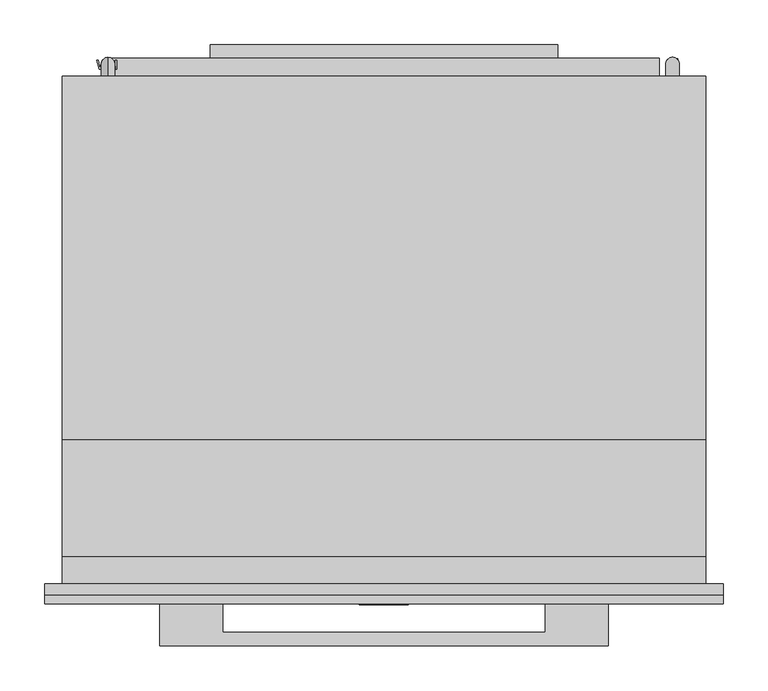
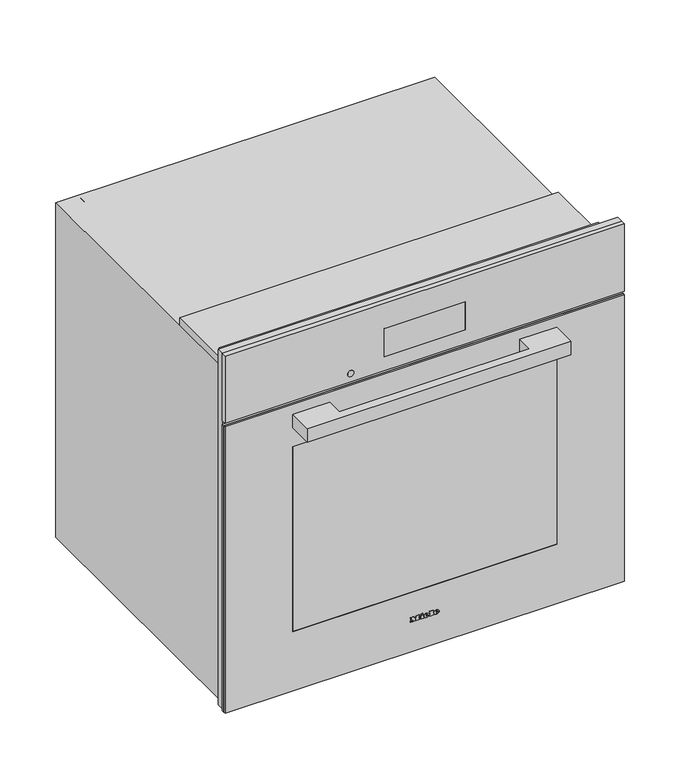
"""IFC4 building model written with IfcOpenShell, lengths in millimetres: proxy geometry, 11805610_USA_H7880BP_OBSW : 22788025_USA_11805610_H7880BP_OBSW."""

import ifcopenshell
import ifcopenshell.guid

model = None  # the IFC model being written
_history = None  # IfcOwnerHistory: only IFC2X3 demands one
_inside = {}  # id of a spatial element -> (the spatial element, [elements in it])
_under = {}  # id of a project, library or spatial element -> (it, [spatial elements below it])
_declared = {}  # id of a project -> (the project, [libraries it declares])
_typed = {}  # id of a type object -> (the type object, [elements of that type])
_made_of = {}  # id of a material, layer set ... -> (it, [elements and type objects made of it])


def new_model(schema):
    """Start an empty IFC model of exactly this schema.

    Asked for "IFC4X3", IfcOpenShell would pick the latest addendum, in which some entities
    have other attributes; the version numbers below select the first issue.
    IFC2X3 requires an IfcOwnerHistory on every rooted entity: one is made here for all.
    """
    global model, _history
    if schema == "IFC4X3":
        model = ifcopenshell.file(schema_version=(4, 3, 0, 0))
    else:
        model = ifcopenshell.file(schema=schema)
    _inside.clear()
    _under.clear()
    _declared.clear()
    _typed.clear()
    _made_of.clear()
    _history = None
    if model.schema == "IFC2X3":
        org = make("IfcOrganization", Name="unknown")
        user = make(
            "IfcPersonAndOrganization",
            ThePerson=make("IfcPerson", FamilyName="unknown"),
            TheOrganization=org,
        )
        app = make(
            "IfcApplication",
            ApplicationDeveloper=org,
            Version="unknown",
            ApplicationFullName="unknown",
            ApplicationIdentifier="unknown",
        )
        _history = make(
            "IfcOwnerHistory",
            OwningUser=user,
            OwningApplication=app,
            ChangeAction="ADDED",
            CreationDate=0,
        )
    return model


def make(cls, **values):
    """One entity of the class cls with the attributes given. An attribute that is None is left unset."""
    return model.create_entity(
        cls, **{name: value for name, value in values.items() if value is not None}
    )


def rooted(cls, **values):
    """An entity with a GlobalId (a new one), such as an element, a storey or a relation."""
    return make(cls, GlobalId=ifcopenshell.guid.new(), OwnerHistory=_history, **values)


def si_unit(unit_type, name, prefix=None):
    """IfcSIUnit, for example si_unit("LENGTHUNIT", "METRE", prefix="MILLI")."""
    return make("IfcSIUnit", UnitType=unit_type, Prefix=prefix, Name=name)


def assignment(units):
    """IfcUnitAssignment: the units of a project."""
    return None if units is None else make("IfcUnitAssignment", Units=units)


def point(xyz):
    """IfcCartesianPoint."""
    return None if xyz is None else make("IfcCartesianPoint", Coordinates=xyz)


def direction(xyz):
    """IfcDirection."""
    return None if xyz is None else make("IfcDirection", DirectionRatios=xyz)


def frame(location, z_axis=None, x_axis=None):
    """IfcAxis2Placement3D, a coordinate frame: its origin and axes. An axis left out is left unset."""
    return make(
        "IfcAxis2Placement3D",
        Location=point(location),
        Axis=direction(z_axis),
        RefDirection=direction(x_axis),
    )


def frame_2d(location, x_axis=None):
    """IfcAxis2Placement2D, a coordinate frame in the plane: its origin and x axis."""
    return make(
        "IfcAxis2Placement2D", Location=point(location), RefDirection=direction(x_axis)
    )


def origin():
    """The frame at (0, 0, 0) with its axes left unset."""
    return frame((0.0, 0.0, 0.0))


def place(relative_to, where):
    """IfcLocalPlacement: puts the frame where relative to a parent placement (None: the world)."""
    return make(
        "IfcLocalPlacement", PlacementRelTo=relative_to, RelativePlacement=where
    )


def context(
    kind, dimensions, precision=None, world=None, true_north=None, identifier=None
):
    """IfcGeometricRepresentationContext, for example the 3D "Model" context."""
    return make(
        "IfcGeometricRepresentationContext",
        ContextIdentifier=identifier,
        ContextType=kind,
        CoordinateSpaceDimension=dimensions,
        Precision=precision,
        WorldCoordinateSystem=world,
        TrueNorth=true_north,
    )


def project(units=None, contexts=None):
    """IfcProject with its units and contexts."""
    return rooted(
        "IfcProject",
        Name="project",
        RepresentationContexts=contexts,
        UnitsInContext=assignment(units),
    )


def spatial(cls, under=None, at=None, **own):
    """A site, building, storey or space (cls), placed at a placement, below another one or the project."""
    s = rooted(cls, ObjectPlacement=at, **own)
    if under is not None:
        _under.setdefault(under.id(), (under, []))[1].append(s)
    return s


def polyline(points):
    """IfcPolyline through the points."""
    return make("IfcPolyline", Points=[point(p) for p in points])


def circle_curve(where, radius):
    """IfcCircle in the frame where."""
    return make("IfcCircle", Position=where, Radius=radius)


def ellipse_curve(where, semi_axis1, semi_axis2):
    """IfcEllipse in the frame where."""
    return make(
        "IfcEllipse", Position=where, SemiAxis1=semi_axis1, SemiAxis2=semi_axis2
    )


def trimmed(basis, trim1, trim2, sense, master):
    """IfcTrimmedCurve: the piece of a basis curve between two trims."""
    return make(
        "IfcTrimmedCurve",
        BasisCurve=basis,
        Trim1=trim1,
        Trim2=trim2,
        SenseAgreement=sense,
        MasterRepresentation=master,
    )


def segment(curve, same_sense, transition):
    """IfcCompositeCurveSegment."""
    return make(
        "IfcCompositeCurveSegment",
        Transition=transition,
        SameSense=same_sense,
        ParentCurve=curve,
    )


def composite_curve(segments, self_intersect=None):
    """IfcCompositeCurve: segments joined end to end."""
    return make("IfcCompositeCurve", Segments=segments, SelfIntersect=self_intersect)


def outline(outer, holes=None, kind="AREA"):
    """IfcArbitraryClosedProfileDef: a profile drawn as a closed curve; with holes, ...WithVoids."""
    if holes is None:
        return make("IfcArbitraryClosedProfileDef", ProfileType=kind, OuterCurve=outer)
    return make(
        "IfcArbitraryProfileDefWithVoids",
        ProfileType=kind,
        OuterCurve=outer,
        InnerCurves=holes,
    )


def extrude(swept, where, along, depth):
    """IfcExtrudedAreaSolid: the profile swept, set in the frame where, extruded along a direction by depth."""
    return make(
        "IfcExtrudedAreaSolid",
        SweptArea=swept,
        Position=where,
        ExtrudedDirection=direction(along),
        Depth=depth,
    )


def faces_of(points, faces, orient=None, outer=None):
    """IfcFace entities. A face is a list of loops; a loop is a list of indices into points, from 0.

    orient and outer hold one flag for each loop. By default every Orientation is true, the
    first loop of a face is its IfcFaceOuterBound and the others are IfcFaceBound.
    """
    made = []
    for i, loops in enumerate(faces):
        bounds = []
        for j, loop in enumerate(loops):
            is_outer = j == 0 if outer is None else outer[i][j]
            bounds.append(
                make(
                    "IfcFaceOuterBound" if is_outer else "IfcFaceBound",
                    Bound=make("IfcPolyLoop", Polygon=[points[k] for k in loop]),
                    Orientation=True if orient is None else orient[i][j],
                )
            )
        made.append(make("IfcFace", Bounds=bounds))
    return made


def faceted_brep(points, faces, orient=None, outer=None, voids=None):
    """IfcFacetedBrep: a solid bounded by flat faces; with voids (closed shells), ...WithVoids."""
    shared = [point(p) for p in points]
    hull = make("IfcClosedShell", CfsFaces=faces_of(shared, faces, orient, outer))
    if voids is None:
        return make("IfcFacetedBrep", Outer=hull)
    return make(
        "IfcFacetedBrepWithVoids",
        Outer=hull,
        Voids=[
            make(cls, CfsFaces=faces_of(shared, fs, o, b)) for cls, fs, o, b in voids
        ],
    )


def shape(context_of_items, identifier, shape_type, items):
    """IfcShapeRepresentation: the items that make up one representation, for example the "Body"."""
    return make(
        "IfcShapeRepresentation",
        ContextOfItems=context_of_items,
        RepresentationIdentifier=identifier,
        RepresentationType=shape_type,
        Items=items,
    )


def source(mapping_origin, context_of_items, identifier, shape_type, items):
    """IfcRepresentationMap: a shape defined once, which mapped items show again and again."""
    return make(
        "IfcRepresentationMap",
        MappingOrigin=mapping_origin,
        MappedRepresentation=shape(context_of_items, identifier, shape_type, items),
    )


def transform(
    local_origin,
    x_axis=None,
    y_axis=None,
    z_axis=None,
    scale=None,
    scale2=None,
    scale3=None,
    uniform=True,
):
    """IfcCartesianTransformationOperator3D, or its non-uniform kind. x_axis, y_axis, z_axis: its Axis1, 2, 3."""
    if uniform:
        return make(
            "IfcCartesianTransformationOperator3D",
            Axis1=direction(x_axis),
            Axis2=direction(y_axis),
            LocalOrigin=point(local_origin),
            Scale=scale,
            Axis3=direction(z_axis),
        )
    return make(
        "IfcCartesianTransformationOperator3DnonUniform",
        Axis1=direction(x_axis),
        Axis2=direction(y_axis),
        LocalOrigin=point(local_origin),
        Scale=scale,
        Axis3=direction(z_axis),
        Scale2=scale2,
        Scale3=scale3,
    )


def mapped(mapping_source, mapping_target):
    """IfcMappedItem: shows the shape of a source again, moved by a transform."""
    return make(
        "IfcMappedItem", MappingSource=mapping_source, MappingTarget=mapping_target
    )


def made_of(thing, what):
    """Note that an element or type object is made of a material, layer set ...; save() writes the relation."""
    if what is not None:
        _made_of.setdefault(what.id(), (what, []))[1].append(thing)
    return thing


def element(
    cls,
    number,
    at=None,
    inside=None,
    cuts=None,
    type_object=None,
    material=None,
    context=None,
    identifier="Body",
    shape_type=None,
    held_by="IfcProductDefinitionShape",
    body=None,
    shapes=None,
    **own,
):
    """One element of the class cls, such as IfcWall. Its Tag is "e" and its number.

    at: its placement. inside: the storey or other place that contains it. cuts: it is an
    opening in that element (IfcRelVoidsElement). A single representation is given by context,
    identifier, shape_type and body (its items); several are given by shapes. held_by: the class
    of the entity that holds the representations. save() writes the other relations.
    """
    e = rooted(cls, Tag="e%d" % number, ObjectPlacement=at, **own)
    if body is not None:
        shapes = [shape(context, identifier, shape_type, body)]
    if shapes is not None:
        e.Representation = make(held_by, Representations=shapes)
    if inside is not None:
        _inside.setdefault(inside.id(), (inside, []))[1].append(e)
    if cuts is not None:
        rooted(
            "IfcRelVoidsElement", RelatingBuildingElement=cuts, RelatedOpeningElement=e
        )
    if type_object is not None:
        _typed.setdefault(type_object.id(), (type_object, []))[1].append(e)
    return made_of(e, material)


def aggregate(whole, parts):
    """IfcRelAggregates: a whole, such as a stair, and the parts it consists of."""
    return rooted("IfcRelAggregates", RelatingObject=whole, RelatedObjects=parts)


def save(model, path):
    """Write the relations noted so far, then the file.

    IfcRelAggregates (storeys below a building ...), IfcRelContainedInSpatialStructure (elements
    in a storey), IfcRelDefinesByType, IfcRelAssociatesMaterial and IfcRelDeclares: one each for
    every whole, place, type object, material and project.
    """
    for whole, parts in _under.values():
        aggregate(whole, parts)
    for where, things in _inside.values():
        rooted(
            "IfcRelContainedInSpatialStructure",
            RelatedElements=things,
            RelatingStructure=where,
        )
    for kind, things in _typed.values():
        rooted("IfcRelDefinesByType", RelatedObjects=things, RelatingType=kind)
    for what, things in _made_of.values():
        rooted("IfcRelAssociatesMaterial", RelatedObjects=things, RelatingMaterial=what)
    for by, libraries in _declared.values():
        rooted("IfcRelDeclares", RelatingContext=by, RelatedDefinitions=libraries)
    model.write(path)


def plane_surface(at):
    """IfcPlane: the flat surface through the origin of the frame at, square to its z axis."""
    return make("IfcPlane", Position=at)


def cylinder_surface(at, radius):
    """IfcCylindricalSurface: all points at the distance radius from the z axis of the frame at."""
    return make("IfcCylindricalSurface", Position=at, Radius=radius)


def revolved_surface(curve, axis_point, axis_direction):
    """IfcSurfaceOfRevolution: the curve turned about the line through axis_point along axis_direction."""
    return make(
        "IfcSurfaceOfRevolution",
        SweptCurve=make("IfcArbitraryOpenProfileDef", ProfileType="CURVE", Curve=curve),
        AxisPosition=make("IfcAxis1Placement", Location=point(axis_point), Axis=direction(axis_direction)),
    )


def extruded_surface(curve, direction_of_extrusion, depth):
    """IfcSurfaceOfLinearExtrusion: the curve pushed along a direction by depth."""
    return make(
        "IfcSurfaceOfLinearExtrusion",
        SweptCurve=make("IfcArbitraryOpenProfileDef", ProfileType="CURVE", Curve=curve),
        ExtrudedDirection=direction(direction_of_extrusion),
        Depth=depth,
    )


def advanced_brep(points, edges, surfaces, faces):
    """IfcAdvancedBrep: a solid bounded by faces that lie on surfaces and meet in shared edges.

    An edge is (start, end): straight between two places in points (the first is 0);
    or (start, end, curve); or (start, end, curve, False) where it runs against its curve.
    A face is (place in surfaces, loops), or (place, loops, False) where it looks against
    its surface's normal. A loop lists edges by number (the first is 1), with a minus sign
    where the edge is run from its end to its start. The first loop is the outer one.
    """
    corners = [point(p) for p in points]
    vertices = [make("IfcVertexPoint", VertexGeometry=c) for c in corners]
    made = []
    for start, end, *more in edges:
        made.append(
            make(
                "IfcEdgeCurve",
                EdgeStart=vertices[start],
                EdgeEnd=vertices[end],
                EdgeGeometry=more[0] if more else make("IfcPolyline", Points=[corners[start], corners[end]]),
                SameSense=more[1] if len(more) > 1 else True,
            )
        )
    hull = []
    for where, loops, *sense in faces:
        bounds = []
        for j, loop in enumerate(loops):
            ring = [make("IfcOrientedEdge", EdgeElement=made[abs(k) - 1], Orientation=k > 0) for k in loop]
            bounds.append(
                make(
                    "IfcFaceOuterBound" if j == 0 else "IfcFaceBound",
                    Bound=make("IfcEdgeLoop", EdgeList=ring),
                    Orientation=True,
                )
            )
        hull.append(make("IfcAdvancedFace", Bounds=bounds, FaceSurface=surfaces[where], SameSense=sense[0] if sense else True))
    return make("IfcAdvancedBrep", Outer=make("IfcClosedShell", CfsFaces=hull))


def specialty_equipment_b9d998e4(model_context):
    return source(origin(), model_context, "Body", "SolidModel", [
        advanced_brep(
        [(21.28, -23.0, 73.133), (21.28, -23.0, 74.042), (27.301, -23.0, 74.042), (16.825, -23.0, 74.042), (19.3, -23.0, 71.0), (27.148, -23.0, 73.133), (24.43, -23.0, 73.133), (22.288, -23.0, 72.125), (21.28, -23.0, 75.194), (21.28, -23.0, 76.175), (22.819, -23.0, 76.175), (22.819, -23.0, 75.194), (21.28, -22.0, 73.133), (22.288, -22.0, 72.125), (24.43, -22.0, 73.133), (27.148, -22.0, 73.133), (19.3, -22.0, 71.0), (16.825, -22.0, 74.042), (27.301, -22.0, 74.042), (21.28, -22.0, 74.042), (21.28, -22.0, 75.194), (22.819, -22.0, 75.194), (22.819, -22.0, 76.175), (21.28, -22.0, 76.175)],
        [
            (0, 1),
            (1, 2),
            (2, 3, ellipse_curve(frame((22.063, -23.0, 74.042), z_axis=(0.0, -1.0, 0.0), x_axis=(-1.0, 0.0, 0.0)), 5.238, 4.329)),
            (3, 4, circle_curve(frame((20.3080491, -23.0, 74.348), z_axis=(0.0, -1.0, 0.0), x_axis=(0.0, 0.0, -1.0)), 3.4964649)),
            (4, 5, circle_curve(frame((21.9581428, -23.0, 76.724), z_axis=(0.0, -1.0, 0.0), x_axis=(0.0, 0.0, -1.0)), 6.3110933)),
            (5, 6),
            (6, 7, circle_curve(frame((22.7279412, -23.0, 73.97), z_axis=(0.0, 1.0, 0.0), x_axis=(0.0, 0.0, -1.0)), 1.896727)),
            (7, 0, circle_curve(frame((22.288, -23.0, 73.133), z_axis=(0.0, 1.0, 0.0), x_axis=(0.0, 0.0, -1.0)), 1.008)),
            (8, 9),
            (9, 10, circle_curve(frame((22.0495, -23.0, 76.175), z_axis=(0.0, 1.0, 0.0), x_axis=(0.0, 0.0, -1.0)), 0.7695)),
            (10, 11),
            (11, 8),
            (12, 13, circle_curve(frame((22.288, -22.0, 73.133), z_axis=(0.0, -1.0, 0.0), x_axis=(0.0, 0.0, -1.0)), 1.008)),
            (13, 14, circle_curve(frame((22.7279412, -22.0, 73.97), z_axis=(0.0, -1.0, 0.0), x_axis=(0.0, 0.0, -1.0)), 1.896727)),
            (14, 15),
            (15, 16, circle_curve(frame((21.9581428, -22.0, 76.724), z_axis=(0.0, 1.0, 0.0), x_axis=(0.0, 0.0, -1.0)), 6.3110933)),
            (16, 17, circle_curve(frame((20.3080491, -22.0, 74.348), z_axis=(0.0, 1.0, 0.0), x_axis=(0.0, 0.0, -1.0)), 3.4964649)),
            (17, 18, ellipse_curve(frame((22.063, -22.0, 74.042), z_axis=(0.0, 1.0, 0.0), x_axis=(-1.0, 0.0, 0.0)), 5.238, 4.329)),
            (18, 19),
            (19, 12),
            (20, 21),
            (21, 22),
            (22, 23, circle_curve(frame((22.0495, -22.0, 76.175), z_axis=(0.0, -1.0, 0.0), x_axis=(0.0, 0.0, -1.0)), 0.7695)),
            (23, 20),
            (0, 12),
            (19, 1),
            (18, 2),
            (5, 15),
            (14, 6),
            (17, 3),
            (13, 7),
            (16, 4),
            (8, 20),
            (23, 9),
            (22, 10),
            (21, 11),
        ],
        [
            plane_surface(frame((21.28, -23.0, 74.042), z_axis=(0.0, -1.0, 0.0), x_axis=(0.0, 0.0, 1.0))),
            plane_surface(frame((21.28, -22.0, 74.042), z_axis=(0.0, 1.0, 0.0), x_axis=(0.0, 0.0, -1.0))),
            plane_surface(frame((21.28, -23.0, 73.133), z_axis=(1.0, 0.0, 0.0), x_axis=(0.0, 1.0, 0.0))),
            plane_surface(frame((21.28, -23.0, 74.042), z_axis=(0.0, 0.0, -1.0), x_axis=(0.0, 1.0, 0.0))),
            plane_surface(frame((27.148, -23.0, 73.133), z_axis=(0.0, 0.0, 1.0), x_axis=(0.0, 1.0, 0.0))),
            extruded_surface(trimmed(ellipse_curve(frame((22.063, -21.0, 74.042), z_axis=(0.0, -1.0, 0.0), x_axis=(-1.0, 0.0, 0.0)), 5.238, 4.329), [point((27.301, -21.0, 74.042))], [point((16.825, -21.0, 74.042))], True, "CARTESIAN"), (0.0, -1.0, 0.0), 1.0),
            revolved_surface(polyline([(22.7279412, -22.0, 72.073273), (22.7279412, -23.0, 72.073273)]), (22.7279412, -22.0, 73.97), (0.0, 1.0, 0.0)),
            revolved_surface(polyline([(22.288, -22.0, 72.125), (22.288, -23.0, 72.125)]), (22.288, -22.0, 73.133), (0.0, 1.0, 0.0)),
            cylinder_surface(frame((20.3080491, -22.0, 74.348), z_axis=(0.0, -1.0, 0.0), x_axis=(0.0, 0.0, -1.0)), 3.4964649),
            cylinder_surface(frame((21.9581428, -22.0, 76.724), z_axis=(0.0, -1.0, 0.0), x_axis=(0.0, 0.0, -1.0)), 6.3110933),
            plane_surface(frame((21.28, -23.0, 75.194), z_axis=(1.0, 0.0, 0.0), x_axis=(0.0, 1.0, 0.0))),
            revolved_surface(polyline([(22.0495, -22.0, 75.4055), (22.0495, -23.0, 75.4055)]), (22.0495, -22.0, 76.175), (0.0, 1.0, 0.0)),
            plane_surface(frame((22.819, -23.0, 76.175), z_axis=(-1.0, 0.0, 0.0), x_axis=(0.0, 1.0, 0.0))),
            plane_surface(frame((22.819, -23.0, 75.194), z_axis=(0.0, 0.0, 1.0), x_axis=(0.0, 1.0, 0.0))),
        ],
        [
            (0, [[1, 2, 3, 4, 5, 6, 7, 8], [9, 10, 11, 12]]),
            (1, [[13, 14, 15, 16, 17, 18, 19, 20], [21, 22, 23, 24]]),
            (2, [[-1, 25, -20, 26]]),
            (3, [[-2, -26, -19, 27]]),
            (4, [[-6, 28, -15, 29]]),
            (5, [[-3, -27, -18, 30]]),
            (6, [[-7, -29, -14, 31]]),
            (7, [[-8, -31, -13, -25]]),
            (8, [[-4, -30, -17, 32]]),
            (9, [[-5, -32, -16, -28]]),
            (10, [[-9, 33, -24, 34]]),
            (11, [[-10, -34, -23, 35]]),
            (12, [[-11, -35, -22, 36]]),
            (13, [[-12, -36, -21, -33]]),
        ],
    ),
        advanced_brep(
        [(2.497, -23.0, 73.133), (2.497, -23.0, 74.042), (8.518, -23.0, 74.042), (-1.958, -23.0, 74.042), (0.517, -23.0, 71.0), (8.365, -23.0, 73.133), (5.647, -23.0, 73.133), (3.505, -23.0, 72.125), (2.497, -23.0, 75.194), (2.497, -23.0, 76.175), (4.036, -23.0, 76.175), (4.036, -23.0, 75.194), (2.497, -22.0, 73.133), (3.505, -22.0, 72.125), (5.647, -22.0, 73.133), (8.365, -22.0, 73.133), (0.517, -22.0, 71.0), (-1.958, -22.0, 74.042), (8.518, -22.0, 74.042), (2.497, -22.0, 74.042), (2.497, -22.0, 75.194), (4.036, -22.0, 75.194), (4.036, -22.0, 76.175), (2.497, -22.0, 76.175)],
        [
            (0, 1),
            (1, 2),
            (2, 3, ellipse_curve(frame((3.28, -23.0, 74.042), z_axis=(0.0, -1.0, 0.0), x_axis=(-1.0, 0.0, 0.0)), 5.238, 4.329)),
            (3, 4, circle_curve(frame((1.5250491, -23.0, 74.348), z_axis=(0.0, -1.0, 0.0), x_axis=(0.0, 0.0, -1.0)), 3.4964649)),
            (4, 5, circle_curve(frame((3.1751428, -23.0, 76.724), z_axis=(0.0, -1.0, 0.0), x_axis=(0.0, 0.0, -1.0)), 6.3110933)),
            (5, 6),
            (6, 7, circle_curve(frame((3.9449412, -23.0, 73.97), z_axis=(0.0, 1.0, 0.0), x_axis=(0.0, 0.0, -1.0)), 1.896727)),
            (7, 0, circle_curve(frame((3.505, -23.0, 73.133), z_axis=(0.0, 1.0, 0.0), x_axis=(0.0, 0.0, -1.0)), 1.008)),
            (8, 9),
            (9, 10, circle_curve(frame((3.2665, -23.0, 76.175), z_axis=(0.0, 1.0, 0.0), x_axis=(0.0, 0.0, -1.0)), 0.7695)),
            (10, 11),
            (11, 8),
            (12, 13, circle_curve(frame((3.505, -22.0, 73.133), z_axis=(0.0, -1.0, 0.0), x_axis=(0.0, 0.0, -1.0)), 1.008)),
            (13, 14, circle_curve(frame((3.9449412, -22.0, 73.97), z_axis=(0.0, -1.0, 0.0), x_axis=(0.0, 0.0, -1.0)), 1.896727)),
            (14, 15),
            (15, 16, circle_curve(frame((3.1751428, -22.0, 76.724), z_axis=(0.0, 1.0, 0.0), x_axis=(0.0, 0.0, -1.0)), 6.3110933)),
            (16, 17, circle_curve(frame((1.5250491, -22.0, 74.348), z_axis=(0.0, 1.0, 0.0), x_axis=(0.0, 0.0, -1.0)), 3.4964649)),
            (17, 18, ellipse_curve(frame((3.28, -22.0, 74.042), z_axis=(0.0, 1.0, 0.0), x_axis=(-1.0, 0.0, 0.0)), 5.238, 4.329)),
            (18, 19),
            (19, 12),
            (20, 21),
            (21, 22),
            (22, 23, circle_curve(frame((3.2665, -22.0, 76.175), z_axis=(0.0, -1.0, 0.0), x_axis=(0.0, 0.0, -1.0)), 0.7695)),
            (23, 20),
            (0, 12),
            (19, 1),
            (18, 2),
            (5, 15),
            (14, 6),
            (17, 3),
            (13, 7),
            (16, 4),
            (8, 20),
            (23, 9),
            (22, 10),
            (21, 11),
        ],
        [
            plane_surface(frame((2.497, -23.0, 74.042), z_axis=(0.0, -1.0, 0.0), x_axis=(0.0, 0.0, 1.0))),
            plane_surface(frame((2.497, -22.0, 74.042), z_axis=(0.0, 1.0, 0.0), x_axis=(0.0, 0.0, -1.0))),
            plane_surface(frame((2.497, -23.0, 73.133), z_axis=(1.0, 0.0, 0.0), x_axis=(0.0, 1.0, 0.0))),
            plane_surface(frame((2.497, -23.0, 74.042), z_axis=(0.0, 0.0, -1.0), x_axis=(0.0, 1.0, 0.0))),
            plane_surface(frame((8.365, -23.0, 73.133), z_axis=(0.0, 0.0, 1.0), x_axis=(0.0, 1.0, 0.0))),
            extruded_surface(trimmed(ellipse_curve(frame((3.28, -21.0, 74.042), z_axis=(0.0, -1.0, 0.0), x_axis=(-1.0, 0.0, 0.0)), 5.238, 4.329), [point((8.518, -21.0, 74.042))], [point((-1.958, -21.0, 74.042))], True, "CARTESIAN"), (0.0, -1.0, 0.0), 1.0),
            revolved_surface(polyline([(3.9449412, -22.0, 72.073273), (3.9449412, -23.0, 72.073273)]), (3.9449412, -22.0, 73.97), (0.0, 1.0, 0.0)),
            revolved_surface(polyline([(3.505, -22.0, 72.125), (3.505, -23.0, 72.125)]), (3.505, -22.0, 73.133), (0.0, 1.0, 0.0)),
            cylinder_surface(frame((1.5250491, -22.0, 74.348), z_axis=(0.0, -1.0, 0.0), x_axis=(0.0, 0.0, -1.0)), 3.4964649),
            cylinder_surface(frame((3.1751428, -22.0, 76.724), z_axis=(0.0, -1.0, 0.0), x_axis=(0.0, 0.0, -1.0)), 6.3110933),
            plane_surface(frame((2.497, -23.0, 75.194), z_axis=(1.0, 0.0, 0.0), x_axis=(0.0, 1.0, 0.0))),
            revolved_surface(polyline([(3.2665, -22.0, 75.4055), (3.2665, -23.0, 75.4055)]), (3.2665, -22.0, 76.175), (0.0, 1.0, 0.0)),
            plane_surface(frame((4.036, -23.0, 76.175), z_axis=(-1.0, 0.0, 0.0), x_axis=(0.0, 1.0, 0.0))),
            plane_surface(frame((4.036, -23.0, 75.194), z_axis=(0.0, 0.0, 1.0), x_axis=(0.0, 1.0, 0.0))),
        ],
        [
            (0, [[1, 2, 3, 4, 5, 6, 7, 8], [9, 10, 11, 12]]),
            (1, [[13, 14, 15, 16, 17, 18, 19, 20], [21, 22, 23, 24]]),
            (2, [[-1, 25, -20, 26]]),
            (3, [[-2, -26, -19, 27]]),
            (4, [[-6, 28, -15, 29]]),
            (5, [[-3, -27, -18, 30]]),
            (6, [[-7, -29, -14, 31]]),
            (7, [[-8, -31, -13, -25]]),
            (8, [[-4, -30, -17, 32]]),
            (9, [[-5, -32, -16, -28]]),
            (10, [[-9, 33, -24, 34]]),
            (11, [[-10, -34, -23, 35]]),
            (12, [[-11, -35, -22, 36]]),
            (13, [[-12, -36, -21, -33]]),
        ],
    ),
        extrude(outline(polyline([(79.469, -7.34), (78.011, -6.656), (79.433, -3.605), (80.891, -4.28), (79.469, -7.34)])), frame((0.0, -23.0, 0.0), z_axis=(0.0, 1.0, 0.0), x_axis=(0.0, 0.0, 1.0)), (0.0, 0.0, 1.0), 1.0),
        extrude(outline(polyline([(77.813, -9.563), (76.202, -9.563), (76.202, -8.492), (72.512, -8.492), (72.512, -9.563), (71.0, -9.563), (71.0, -2.462), (72.512, -2.462), (72.512, -3.506), (77.813, -3.506), (77.813, -9.563)])), frame((0.0, -23.0, 0.0), z_axis=(0.0, 1.0, 0.0), x_axis=(0.0, 0.0, 1.0)), (0.0, 0.0, 1.0), 1.0),
        extrude(outline(polyline([(78.533, 9.022), (78.533, 10.102), (72.512, 10.102), (72.512, 9.022), (71.0, 9.022), (71.0, 16.321), (72.512, 16.321), (72.512, 15.214), (80.0, 15.214), (80.0, 9.022), (78.533, 9.022)])), frame((0.0, -23.0, 0.0), z_axis=(0.0, 1.0, 0.0), x_axis=(0.0, 0.0, 1.0)), (0.0, 0.0, 1.0), 1.0),
        extrude(outline(polyline([(78.533, -27.5), (78.533, -26.411), (72.512, -26.411), (72.512, -27.5), (71.0, -27.5), (71.0, -23.54), (72.512, -23.54), (72.512, -24.62), (76.3341247, -24.62), (71.0, -20.597), (76.4402223, -16.556), (72.512, -16.556), (72.512, -17.663), (71.0, -17.663), (71.0, -10.481), (72.512, -10.481), (72.512, -11.624), (78.533, -11.624), (78.533, -10.481), (80.0, -10.481), (80.0, -15.962), (76.625, -18.59), (80.0, -21.227), (80.0, -27.5), (78.533, -27.5)])), frame((0.0, -23.0, 0.0), z_axis=(0.0, 1.0, 0.0), x_axis=(0.0, 0.0, 1.0)), (0.0, 0.0, 1.0), 1.0),
        extrude(outline(polyline([(-250.0, -69.0), (-250.0, -22.0), (-180.0, -22.0), (-180.0, -54.0), (180.0, -54.0), (180.0, -22.0), (250.0, -22.0), (250.0, -69.0), (-250.0, -69.0)])), frame((0.0, 0.0, 538.0), z_axis=(0.0, 0.0, 1.0), x_axis=(1.0, 0.0, 0.0)), (0.0, 0.0, 1.0), 27.0),
        extrude(outline(polyline([(378.5, -18.0), (-378.5, -18.0), (-378.5, -13.0), (378.5, -13.0), (378.5, -18.0)])), frame((0.0, 0.0, 11.0), z_axis=(0.0, 0.0, 1.0), x_axis=(1.0, 0.0, 0.0)), (0.0, 0.0, 1.0), 574.0),
        extrude(outline(polyline([(585.0, 378.5), (585.0, -378.5), (11.0, -378.5), (11.0, 378.5), (585.0, 378.5)]), holes=[polyline([(500.0, 250.5), (130.0, 250.5), (130.0, -250.5), (500.0, -250.5), (500.0, 250.5)])]), frame((0.0, -22.0, 0.0), z_axis=(0.0, 1.0, 0.0), x_axis=(0.0, 0.0, 1.0)), (0.0, 0.0, 1.0), 4.0),
        extrude(outline(polyline([(-250.5, -18.0), (250.5, -18.0), (250.5, -22.0), (-250.5, -22.0), (-250.5, -18.0)])), frame((0.0, 0.0, 130.0), z_axis=(0.0, 0.0, 1.0), x_axis=(1.0, 0.0, 0.0)), (0.0, 0.0, 1.0), 370.0),
        extrude(outline(polyline([(-76.5, -21.0), (76.5, -21.0), (76.5, -22.0), (-76.5, -22.0), (-76.5, -21.0)])), frame((0.0, 0.0, 620.0), z_axis=(0.0, 0.0, 1.0), x_axis=(1.0, 0.0, 0.0)), (0.0, 0.0, 1.0), 56.0),
        faceted_brep([(378.5, -13.0, 727.0), (378.5, -13.0, 592.0), (-378.5, -13.0, 592.0), (-378.5, -13.0, 727.0), (378.5, -22.0, 592.0), (-378.5, -22.0, 592.0), (378.5, -22.0, 727.0), (-378.5, -22.0, 727.0), (76.5, -22.0, 676.0), (76.5, -22.0, 620.0), (-76.5, -22.0, 620.0), (-76.5, -22.0, 676.0), (-76.5, -21.0, 620.0), (-76.5, -21.0, 676.0), (76.5, -21.0, 676.0), (76.5, -21.0, 620.0)], [[[0, 1, 2, 3]], [[4, 5, 2, 1]], [[6, 7, 5, 4], [8, 9, 10, 11]], [[12, 13, 11, 10]], [[13, 14, 8, 11]], [[7, 6, 0, 3]], [[5, 7, 3, 2]], [[6, 4, 1, 0]], [[14, 13, 12, 15]], [[14, 15, 9, 8]], [[15, 12, 10, 9]]]),
        extrude(outline(composite_curve([segment(trimmed(circle_curve(frame_2d((609.0, -140.5745637)), 6.0), [point((609.0, -146.5745637))], [point((609.0, -134.5745637))], False, "CARTESIAN"), True, "CONTINUOUS"), segment(trimmed(circle_curve(frame_2d((609.0, -140.5745637)), 6.0), [point((609.0, -134.5745637))], [point((609.0, -146.5745637))], False, "CARTESIAN"), True, "CONTINUOUS")], self_intersect=False)), frame((0.0, -22.5, 0.0), z_axis=(0.0, 1.0, 0.0), x_axis=(0.0, 0.0, 1.0)), (0.0, 0.0, 1.0), 1.0),
        extrude(outline(polyline([(327.856335, 586.4164958), (327.856335, 576.4164958), (322.0, 576.4164958), (322.0, 577.4164958), (326.856335, 577.4164958), (326.856335, 580.9164958), (323.9061855, 580.9164958), (323.9061855, 581.9164958), (326.856335, 581.9164958), (326.856335, 585.4164958), (322.0, 585.4164958), (322.0, 586.4164958), (327.856335, 586.4164958)])), frame((0.0, 0.0, 585.0), z_axis=(0.0, 0.0, 1.0), x_axis=(1.0, 0.0, 0.0)), (0.0, 0.0, 1.0), 1.0),
        extrude(outline(polyline([(320.5, 576.4164958), (315.5, 576.4164958), (315.5, 577.4164958), (319.3952098, 577.4164958), (319.3952098, 586.4164958), (320.5, 586.4164958), (320.5, 576.4164958)])), frame((0.0, 0.0, 585.0), z_axis=(0.0, 0.0, 1.0), x_axis=(1.0, 0.0, 0.0)), (0.0, 0.0, 1.0), 1.0),
        advanced_brep(
        [(329.5, 567.0, 616.0), (314.5, 567.0, 616.0), (329.5, 580.5, 616.0), (314.5, 580.5, 616.0), (329.5, 580.5, 586.0), (314.5, 580.5, 586.0)],
        [
            (0, 1, circle_curve(frame((322.0, 567.0, 616.0), z_axis=(0.0, -1.0, 0.0), x_axis=(-1.0, 0.0, 0.0)), 7.5)),
            (1, 0, circle_curve(frame((322.0, 567.0, 616.0), z_axis=(0.0, -1.0, 0.0), x_axis=(-1.0, 0.0, 0.0)), 7.5)),
            (0, 2),
            (2, 3, ellipse_curve(frame((322.0, 580.5, 616.0), z_axis=(0.0, -0.7071067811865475, 0.7071067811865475), x_axis=(0.0, -0.7071067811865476, -0.7071067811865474)), 10.6066017, 7.5)),
            (3, 1),
            (3, 2, ellipse_curve(frame((322.0, 580.5, 616.0), z_axis=(0.0, -0.7071067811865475, 0.7071067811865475), x_axis=(0.0, -0.7071067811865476, -0.7071067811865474)), 10.6066017, 7.5)),
            (4, 5, circle_curve(frame((322.0, 580.5, 586.0), z_axis=(0.0, 0.0, -1.0), x_axis=(-1.0, 0.0, 0.0)), 7.5)),
            (5, 4, circle_curve(frame((322.0, 580.5, 586.0), z_axis=(0.0, 0.0, -1.0), x_axis=(-1.0, 0.0, 0.0)), 7.5)),
            (2, 4),
            (5, 3),
        ],
        [
            plane_surface(frame((322.0, 567.0, 616.0), z_axis=(0.0, -1.0, 0.0), x_axis=(-1.0, 0.0, 0.0))),
            cylinder_surface(frame((322.0, 567.0, 616.0), z_axis=(0.0, -1.0, 0.0), x_axis=(-1.0, 0.0, 0.0)), 7.5),
            plane_surface(frame((322.0, 580.5, 586.0), z_axis=(0.0, 0.0, -1.0), x_axis=(-1.0, 0.0, 0.0))),
            cylinder_surface(frame((322.0, 580.5, 616.0), z_axis=(0.0, 0.0, 1.0), x_axis=(-1.0, 0.0, 0.0)), 7.5),
        ],
        [
            (0, [[1, 2]]),
            (1, [[-1, 3, 4, 5]]),
            (1, [[-2, -5, 6, -3]]),
            (2, [[7, 8]]),
            (3, [[-4, 9, -8, 10]]),
            (3, [[-6, -10, -7, -9]]),
        ],
    ),
        extrude(outline(polyline([(-299.6202453, 584.6579034), (-298.3679159, 584.6579034), (-298.3679159, 574.6085654), (-299.6149696, 574.6085654), (-299.6149696, 578.0788376), (-301.2450476, 579.7089156), (-305.0884371, 574.6085654), (-306.7066233, 574.6085654), (-302.2301778, 580.5490092), (-306.5150452, 584.6543198), (-304.7713587, 584.6543198), (-299.6202453, 579.7190632), (-299.6202453, 584.6579034)])), frame((0.0, 0.0, 614.0), z_axis=(0.0, 0.0, 1.0), x_axis=(1.0, 0.0, 0.0)), (0.0, 0.0, 1.0), 1.0),
        extrude(outline(polyline([(-307.9869589, 584.6543198), (-306.6749258, 584.6543198), (-309.4307199, 574.6085654), (-310.9513148, 574.6085654), (-313.5193527, 583.4401554), (-316.2529808, 574.6085654), (-317.6013152, 574.6085654), (-320.3417347, 584.6663082), (-319.072273, 584.6663082), (-316.9158246, 576.0172661), (-314.4357517, 584.6663082), (-312.5770153, 584.6663082), (-310.0671021, 576.0346114), (-307.9869589, 584.6543198)])), frame((0.0, 0.0, 614.0), z_axis=(0.0, 0.0, 1.0), x_axis=(1.0, 0.0, 0.0)), (0.0, 0.0, 1.0), 1.0),
        advanced_brep(
        [(-308.0, 573.0, 615.0), (-308.0, 588.0, 615.0), (-308.0, 573.0, 637.5), (-308.0, 588.0, 652.5), (-308.0, 559.0, 637.5), (-308.0, 559.0, 652.5)],
        [
            (0, 1, circle_curve(frame((-308.0, 580.5, 615.0), z_axis=(0.0, 0.0, -1.0), x_axis=(0.0, 1.0, 0.0)), 7.5)),
            (1, 0, circle_curve(frame((-308.0, 580.5, 615.0), z_axis=(0.0, 0.0, -1.0), x_axis=(0.0, 1.0, 0.0)), 7.5)),
            (0, 2),
            (2, 3, ellipse_curve(frame((-308.0, 580.5, 645.0), z_axis=(0.0, 0.7071067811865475, -0.7071067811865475), x_axis=(0.0, -0.7071067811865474, -0.7071067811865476)), 10.6066017, 7.5)),
            (3, 1),
            (3, 2, ellipse_curve(frame((-308.0, 580.5, 645.0), z_axis=(0.0, 0.7071067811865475, -0.7071067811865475), x_axis=(0.0, -0.7071067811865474, -0.7071067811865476)), 10.6066017, 7.5)),
            (4, 5, circle_curve(frame((-308.0, 559.0, 645.0), z_axis=(0.0, -1.0, 0.0), x_axis=(0.0, 0.0, 1.0)), 7.5)),
            (5, 4, circle_curve(frame((-308.0, 559.0, 645.0), z_axis=(0.0, -1.0, 0.0), x_axis=(0.0, 0.0, 1.0)), 7.5)),
            (2, 4),
            (5, 3),
        ],
        [
            plane_surface(frame((-308.0, 580.5, 615.0), z_axis=(0.0, 0.0, -1.0), x_axis=(-1.0, 0.0, 0.0))),
            cylinder_surface(frame((-308.0, 580.5, 615.0), z_axis=(0.0, 0.0, -1.0), x_axis=(0.0, 1.0, 0.0)), 7.5),
            plane_surface(frame((-308.0, 559.0, 645.0), z_axis=(0.0, -1.0, 0.0), x_axis=(-1.0, 0.0, 0.0))),
            cylinder_surface(frame((-308.0, 580.5, 645.0), z_axis=(0.0, 1.0, 0.0), x_axis=(0.0, 0.0, 1.0)), 7.5),
        ],
        [
            (0, [[1, 2]]),
            (1, [[-1, 3, 4, 5]]),
            (1, [[-2, -5, 6, -3]]),
            (2, [[7, 8]]),
            (3, [[-4, 9, -8, 10]]),
            (3, [[-6, -10, -7, -9]]),
        ],
    ),
        faceted_brep([(353.5, 25.0, 593.0), (-353.5, 25.0, 593.0), (-353.5, 25.0, 15.0), (353.5, 25.0, 15.0), (-312.5, 25.0, 526.0), (312.5, 25.0, 526.0), (312.5, 25.0, 103.0), (-312.5, 25.0, 103.0), (353.5, 0.0, 593.0), (-353.5, 0.0, 593.0), (-353.5, 0.0, 15.0), (353.5, 0.0, 15.0), (359.0, 0.0, 670.0), (359.0, 0.0, 0.0), (359.0, 567.0, 0.0), (359.0, 567.0, 670.0), (-359.0, 0.0, 0.0), (-359.0, 0.0, 670.0), (-359.0, 567.0, 670.0), (-359.0, 567.0, 0.0), (-307.0, 567.0, 0.0), (-307.0, 587.0, 0.0), (307.0, 587.0, 0.0), (307.0, 567.0, 0.0), (-307.0, 587.0, 584.0), (307.0, 587.0, 584.0), (312.5, 433.0, 526.0), (-312.5, 433.0, 526.0), (-312.5, 433.0, 103.0), (312.5, 433.0, 103.0), (-307.0, 567.0, 584.0), (307.0, 567.0, 584.0)], [[[0, 1, 2, 3], [4, 5, 6, 7]], [[1, 0, 8, 9]], [[2, 1, 9, 10]], [[0, 3, 11, 8]], [[12, 13, 14, 15]], [[16, 17, 18, 19]], [[13, 16, 19, 20, 21, 22, 23, 14]], [[22, 21, 24, 25]], [[17, 12, 15, 18]], [[16, 13, 12, 17], [9, 8, 11, 10]], [[26, 27, 28, 29]], [[27, 26, 5, 4]], [[28, 27, 4, 7]], [[29, 28, 7, 6]], [[26, 29, 6, 5]], [[3, 2, 10, 11]], [[25, 24, 30, 31]], [[20, 30, 24, 21]], [[14, 23, 31, 30, 20, 19, 18, 15]], [[31, 23, 22, 25]]]),
        extrude(outline(polyline([(-194.0, 602.0), (194.0, 602.0), (194.0, 587.0), (-194.0, 587.0), (-194.0, 602.0)])), frame((0.0, 0.0, 230.0), z_axis=(0.0, 0.0, 1.0), x_axis=(1.0, 0.0, 0.0)), (0.0, 0.0, 1.0), 158.0),
        extrude(outline(polyline([(30.0, 705.0), (30.0, 686.0), (161.0, 686.0), (161.0, 670.0), (0.0, 670.0), (0.0, 705.0), (30.0, 705.0)])), frame((-359.0, 0.0, 0.0), z_axis=(1.0, 0.0, 0.0), x_axis=(0.0, 1.0, 0.0)), (0.0, 0.0, 1.0), 718.0),
        extrude(outline(polyline([(15.0, 378.5), (727.0, 378.5), (727.0, -378.5), (15.0, -378.5), (15.0, -353.5), (593.0, -353.5), (593.0, 353.5), (15.0, 353.5), (15.0, 378.5)])), frame((0.0, -13.0, 0.0), z_axis=(0.0, 1.0, 0.0), x_axis=(0.0, 0.0, 1.0)), (0.0, 0.0, 1.0), 13.0),
    ])


if __name__ == "__main__":
    model = new_model("IFC4")
    model_context = context("Model", 3, world=origin())
    ifc_project = project(units=[si_unit("LENGTHUNIT", "METRE", prefix="MILLI")], contexts=[model_context])
    site = spatial("IfcSite", under=ifc_project)
    building = spatial("IfcBuilding", under=site)
    placement = place(None, origin())
    specialty_equipment_shape = specialty_equipment_b9d998e4(model_context)
    element("IfcBuildingElementProxy", 1, Name="11805610_USA_H7880BP_OBSW : 22788025_USA_11805610_H7880BP_OBSW", ObjectType="11805610_USA_H7880BP_OBSW : 22788025_USA_11805610_H7880BP_OBSW", at=placement, inside=building, context=model_context, shape_type="MappedRepresentation", body=[
        mapped(specialty_equipment_shape, transform((0.0, 0.0, 0.0), x_axis=(1.0, 0.0, 0.0), y_axis=(0.0, 1.0, 0.0), z_axis=(0.0, 0.0, 1.0))),
    ])
    save(model, "model.ifc")
